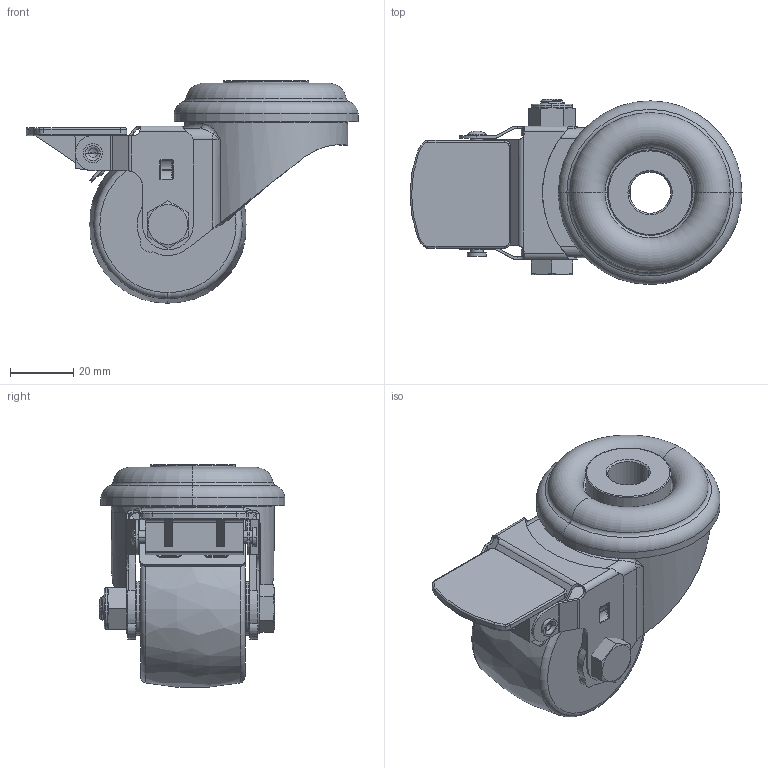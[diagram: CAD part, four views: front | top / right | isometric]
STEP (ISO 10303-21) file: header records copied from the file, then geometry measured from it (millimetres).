
FILE_DESCRIPTION((''),'2;1');
FILE_NAME('BZH35W0050SWU5D0N-202952_ASM','2020-08-01T',('Administrator'),(''),'PRO/ENGINEER BY PARAMETRIC TECHNOLOGY CORPORATION, 2012480','PRO/ENGINEER BY PARAMETRIC TECHNOLOGY CORPORATION, 2012480','');
FILE_SCHEMA(('CONFIG_CONTROL_DESIGN'));
Length unit declared in the file: millimetre
Products named in the file (6): 321434-11; 330969-Z; 500304-M8-50; 500159_M8; 330969-01_ASM; BZH35W0050SWU5D0N-202952_ASM
Assembly tree (5 placements, depth 3):
  BZH35W0050SWU5D0N-202952_ASM
    321434-11
    330969-01_ASM
      330969-Z
      500304-M8-50
      500159_M8
Bounding box: 104.8 x 58.5 x 70.23 mm (x, y, z)
Volume: 109548.4 mm3; surface area: 38067.6 mm2
Topology: 5 solids, 5 shells, 457 faces, 1129 edges, 699 vertices
Faces by surface type: cylinder 182, plane 115, torus 72, bspline 58, cone 28, sphere 2
Entity records: 19981 total; most frequent: CARTESIAN_POINT 9314, ORIENTED_EDGE 2250, DIRECTION 2162, EDGE_CURVE 1125, AXIS2_PLACEMENT_3D 862, VERTEX_POINT 699, EDGE_LOOP 496, FACE_OUTER_BOUND 457
